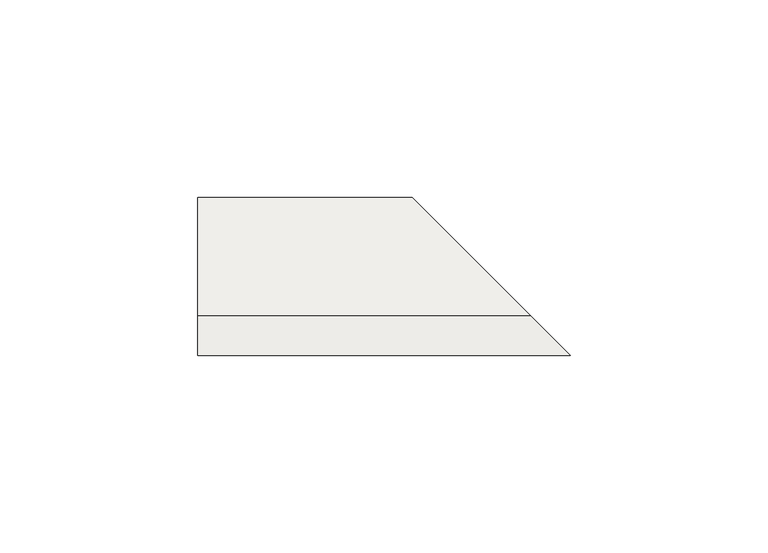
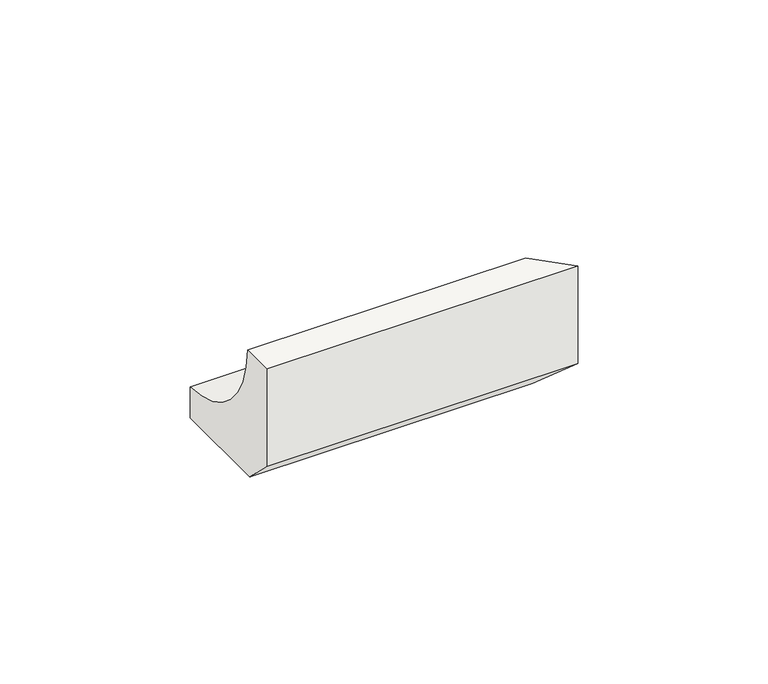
"""IFC4 building model written with IfcOpenShell, lengths in millimetres: slab geometry, ROSA GRES_112 (corte) : Pieza 112_Aqua_Marino_Liso."""

from ifc_helpers import new_model, si_unit, frame, origin, place, context, project, spatial, polyline, circle_curve, ellipse_curve, source, transform, mapped, element, save
from ifc_brep_helpers import plane_surface, revolved_surface, advanced_brep


def slab_0580c138(model_context):
    return source(origin(), model_context, "Body", "AdvancedBrep", [
        advanced_brep(
        [(0.0, 0.0, 8.7114978), (0.0, 0.0, 40.0), (0.0, 9.9734114, 40.0), (0.0, 40.0, 9.9734114), (0.0, 40.0, 0.0), (0.0, 8.7114978, 0.0), (94.3, 0.0, 8.7114978), (94.3, 0.0, 40.0), (84.3265886, 9.9734114, 40.0), (54.3, 40.0, 9.9734114), (54.3, 40.0, 0.0), (85.5885022, 8.7114978, 0.0)],
        [
            (0, 1),
            (1, 2),
            (2, 3, circle_curve(frame((0.0, 39.9955547, 39.9955547), z_axis=(1.0, 0.0, 0.0), x_axis=(0.0, 1.0, 0.0)), 30.0221435)),
            (3, 4),
            (4, 5),
            (5, 0),
            (0, 6),
            (6, 7),
            (7, 1),
            (7, 8),
            (8, 2),
            (8, 9, ellipse_curve(frame((54.3044453, 39.9955547, 39.9955547), z_axis=(0.7071067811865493, 0.7071067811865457, 0.0), x_axis=(0.7071067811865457, -0.7071067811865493, 0.0)), 42.4577226, 30.0221435)),
            (9, 3),
            (9, 10),
            (10, 4),
            (10, 11),
            (11, 5),
            (11, 6),
        ],
        [
            plane_surface(frame((0.0, 0.0, 0.0), z_axis=(-1.0, 0.0, 0.0), x_axis=(0.0, 0.0, 1.0))),
            plane_surface(frame((0.0, 0.0, 8.7114978), z_axis=(0.0, -1.0, 0.0), x_axis=(1.0, 0.0, 0.0))),
            plane_surface(frame((0.0, 0.0, 40.0), z_axis=(0.0, 0.0, 1.0), x_axis=(1.0, 0.0, 0.0))),
            revolved_surface(polyline([(84.32658886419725, 70.0176982, 39.9955547), (0.0, 70.0176982, 39.9955547)]), (0.0, 39.9955547, 39.9955547), (1.0, 0.0, 0.0)),
            plane_surface(frame((0.0, 40.0, 9.9734114), z_axis=(0.0, 1.0, 0.0), x_axis=(1.0, 0.0, 0.0))),
            plane_surface(frame((0.0, 40.0, 0.0), z_axis=(0.0, 0.0, -1.0), x_axis=(1.0, 0.0, 0.0))),
            plane_surface(frame((0.0, 8.7114978, 0.0), z_axis=(0.0, -0.7071067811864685, -0.7071067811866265), x_axis=(1.0, 0.0, 0.0))),
            plane_surface(frame((53.8, 40.5, 104.9871832), z_axis=(0.7071067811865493, 0.7071067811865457, 0.0), x_axis=(0.0, 0.0, -1.0))),
        ],
        [
            (0, [[1, 2, 3, 4, 5, 6]]),
            (1, [[-1, 7, 8, 9]]),
            (2, [[-2, -9, 10, 11]]),
            (3, [[-3, -11, 12, 13]]),
            (4, [[-4, -13, 14, 15]]),
            (5, [[-5, -15, 16, 17]]),
            (6, [[-6, -17, 18, -7]]),
            (7, [[-8, -18, -16, -14, -12, -10]]),
        ],
    ),
    ])


if __name__ == "__main__":
    model = new_model("IFC4")
    model_context = context("Model", 3, world=origin())
    ifc_project = project(units=[si_unit("LENGTHUNIT", "METRE", prefix="MILLI")], contexts=[model_context])
    site = spatial("IfcSite", under=ifc_project)
    building = spatial("IfcBuilding", under=site)
    placement = place(None, origin())
    slab_shape = slab_0580c138(model_context)
    element("IfcSlab", 1, ObjectType="ROSA GRES_112 (corte) : Pieza 112_Aqua_Marino_Liso", at=placement, inside=building, context=model_context, shape_type="MappedRepresentation", body=[
        mapped(slab_shape, transform((0.0, 0.0, 0.0), x_axis=(1.0, 0.0, 0.0), y_axis=(0.0, 1.0, 0.0), z_axis=(0.0, 0.0, 1.0))),
    ])
    save(model, "model.ifc")
